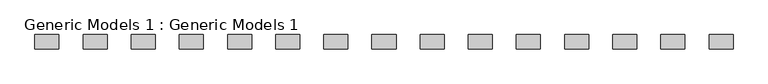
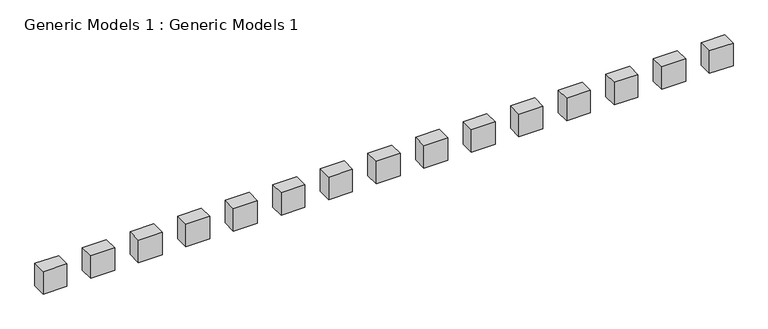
"""IFC4 building model written with IfcOpenShell, lengths in millimetres: proxy geometry, Generic Models 1 : Generic Models 1."""

from ifc_helpers import new_model, si_unit, frame, origin, place, context, project, spatial, polyline, outline, extrude, source, transform, mapped, element, save


def generic_models_1_generic_models_1_b2b5510b(model_context):
    return source(origin(), model_context, "Body", "SweptSolid", [
        extrude(outline(polyline([(2720.0, -105.0), (2670.0, -105.0), (2670.0, -75.0), (2720.0, -75.0), (2720.0, -105.0)])), frame((0.0, 0.0, 2065.0), z_axis=(0.0, 0.0, 1.0), x_axis=(1.0, 0.0, 0.0)), (0.0, 0.0, 1.0), 50.0),
        extrude(outline(polyline([(2620.0, -105.0), (2570.0, -105.0), (2570.0, -75.0), (2620.0, -75.0), (2620.0, -105.0)])), frame((0.0, 0.0, 2065.0), z_axis=(0.0, 0.0, 1.0), x_axis=(1.0, 0.0, 0.0)), (0.0, 0.0, 1.0), 50.0),
        extrude(outline(polyline([(2520.0, -105.0), (2470.0, -105.0), (2470.0, -75.0), (2520.0, -75.0), (2520.0, -105.0)])), frame((0.0, 0.0, 2065.0), z_axis=(0.0, 0.0, 1.0), x_axis=(1.0, 0.0, 0.0)), (0.0, 0.0, 1.0), 50.0),
        extrude(outline(polyline([(2420.0, -105.0), (2370.0, -105.0), (2370.0, -75.0), (2420.0, -75.0), (2420.0, -105.0)])), frame((0.0, 0.0, 2065.0), z_axis=(0.0, 0.0, 1.0), x_axis=(1.0, 0.0, 0.0)), (0.0, 0.0, 1.0), 50.0),
        extrude(outline(polyline([(2320.0, -105.0), (2270.0, -105.0), (2270.0, -75.0), (2320.0, -75.0), (2320.0, -105.0)])), frame((0.0, 0.0, 2065.0), z_axis=(0.0, 0.0, 1.0), x_axis=(1.0, 0.0, 0.0)), (0.0, 0.0, 1.0), 50.0),
        extrude(outline(polyline([(2220.0, -105.0), (2170.0, -105.0), (2170.0, -75.0), (2220.0, -75.0), (2220.0, -105.0)])), frame((0.0, 0.0, 2065.0), z_axis=(0.0, 0.0, 1.0), x_axis=(1.0, 0.0, 0.0)), (0.0, 0.0, 1.0), 50.0),
        extrude(outline(polyline([(2120.0, -105.0), (2070.0, -105.0), (2070.0, -75.0), (2120.0, -75.0), (2120.0, -105.0)])), frame((0.0, 0.0, 2065.0), z_axis=(0.0, 0.0, 1.0), x_axis=(1.0, 0.0, 0.0)), (0.0, 0.0, 1.0), 50.0),
        extrude(outline(polyline([(2020.0, -105.0), (1970.0, -105.0), (1970.0, -75.0), (2020.0, -75.0), (2020.0, -105.0)])), frame((0.0, 0.0, 2065.0), z_axis=(0.0, 0.0, 1.0), x_axis=(1.0, 0.0, 0.0)), (0.0, 0.0, 1.0), 50.0),
        extrude(outline(polyline([(1920.0, -105.0), (1870.0, -105.0), (1870.0, -75.0), (1920.0, -75.0), (1920.0, -105.0)])), frame((0.0, 0.0, 2065.0), z_axis=(0.0, 0.0, 1.0), x_axis=(1.0, 0.0, 0.0)), (0.0, 0.0, 1.0), 50.0),
        extrude(outline(polyline([(1820.0, -105.0), (1770.0, -105.0), (1770.0, -75.0), (1820.0, -75.0), (1820.0, -105.0)])), frame((0.0, 0.0, 2065.0), z_axis=(0.0, 0.0, 1.0), x_axis=(1.0, 0.0, 0.0)), (0.0, 0.0, 1.0), 50.0),
        extrude(outline(polyline([(1720.0, -105.0), (1670.0, -105.0), (1670.0, -75.0), (1720.0, -75.0), (1720.0, -105.0)])), frame((0.0, 0.0, 2065.0), z_axis=(0.0, 0.0, 1.0), x_axis=(1.0, 0.0, 0.0)), (0.0, 0.0, 1.0), 50.0),
        extrude(outline(polyline([(1620.0, -105.0), (1570.0, -105.0), (1570.0, -75.0), (1620.0, -75.0), (1620.0, -105.0)])), frame((0.0, 0.0, 2065.0), z_axis=(0.0, 0.0, 1.0), x_axis=(1.0, 0.0, 0.0)), (0.0, 0.0, 1.0), 50.0),
        extrude(outline(polyline([(1520.0, -105.0), (1470.0, -105.0), (1470.0, -75.0), (1520.0, -75.0), (1520.0, -105.0)])), frame((0.0, 0.0, 2065.0), z_axis=(0.0, 0.0, 1.0), x_axis=(1.0, 0.0, 0.0)), (0.0, 0.0, 1.0), 50.0),
        extrude(outline(polyline([(1420.0, -105.0), (1370.0, -105.0), (1370.0, -75.0), (1420.0, -75.0), (1420.0, -105.0)])), frame((0.0, 0.0, 2065.0), z_axis=(0.0, 0.0, 1.0), x_axis=(1.0, 0.0, 0.0)), (0.0, 0.0, 1.0), 50.0),
        extrude(outline(polyline([(1320.0, -105.0), (1270.0, -105.0), (1270.0, -75.0), (1320.0, -75.0), (1320.0, -105.0)])), frame((0.0, 0.0, 2065.0), z_axis=(0.0, 0.0, 1.0), x_axis=(1.0, 0.0, 0.0)), (0.0, 0.0, 1.0), 50.0),
    ])


if __name__ == "__main__":
    model = new_model("IFC4")
    model_context = context("Model", 3, world=origin())
    ifc_project = project(units=[si_unit("LENGTHUNIT", "METRE", prefix="MILLI")], contexts=[model_context])
    site = spatial("IfcSite", under=ifc_project)
    building = spatial("IfcBuilding", under=site)
    placement = place(None, origin())
    generic_models_1_generic_models_1_shape = generic_models_1_generic_models_1_b2b5510b(model_context)
    element("IfcBuildingElementProxy", 1, Name="Generic Models 1 : Generic Models 1", ObjectType="Generic Models 1 : Generic Models 1", at=placement, inside=building, context=model_context, shape_type="MappedRepresentation", body=[
        mapped(generic_models_1_generic_models_1_shape, transform((0.0, 0.0, 0.0), x_axis=(1.0, 0.0, 0.0), y_axis=(0.0, 1.0, 0.0), z_axis=(0.0, 0.0, 1.0))),
    ])
    save(model, "model.ifc")
